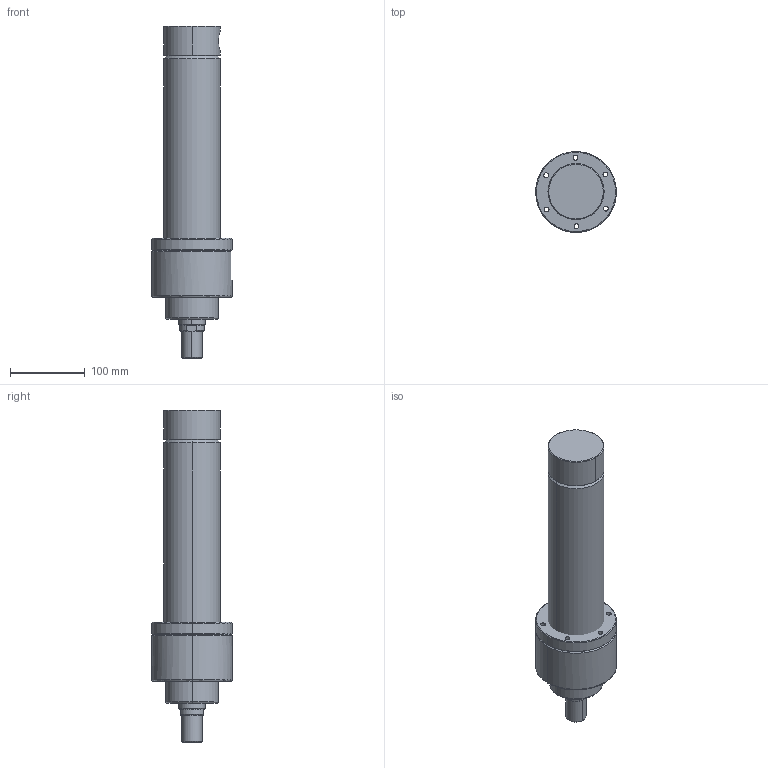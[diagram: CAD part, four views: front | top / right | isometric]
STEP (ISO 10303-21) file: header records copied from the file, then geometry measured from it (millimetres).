
FILE_DESCRIPTION (( 'STEP AP214' ), '1' );
FILE_NAME ('63-35-200-WEB.STEP', '2021-01-13T12:16:37', ( 'cagdas' ), ( '' ), 'SwSTEP 2.0', 'SolidWorks 2021', '' );
FILE_SCHEMA (( 'AUTOMOTIVE_DESIGN' ));
Length unit declared in the file: millimetre
Products named in the file (6): TYAK_63_75; 63x75_BORU_WEB; 35_K_MIL_WEB; 63_36_CETOP_烰_KAPAK; 63-35-200-WEB; 63_Gerdirme _Flansý
Assembly tree (5 placements, depth 2):
  63-35-200-WEB
    63x75_BORU_WEB
    TYAK_63_75
    63_36_CETOP_烰_KAPAK
    63_Gerdirme _Flansý
    35_K_MIL_WEB
Bounding box: 107.99 x 107.99 x 444 mm (x, y, z)
Volume: 1343796.8 mm3; surface area: 255827.8 mm2
Topology: 5 solids, 5 shells, 377 faces, 925 edges, 590 vertices
Faces by surface type: plane 120, cylinder 102, bspline 87, cone 64, torus 4
Entity records: 17222 total; most frequent: CARTESIAN_POINT 8400, ORIENTED_EDGE 1850, DIRECTION 1528, EDGE_CURVE 925, VERTEX_POINT 590, AXIS2_PLACEMENT_3D 575, EDGE_LOOP 443, LINE 378
